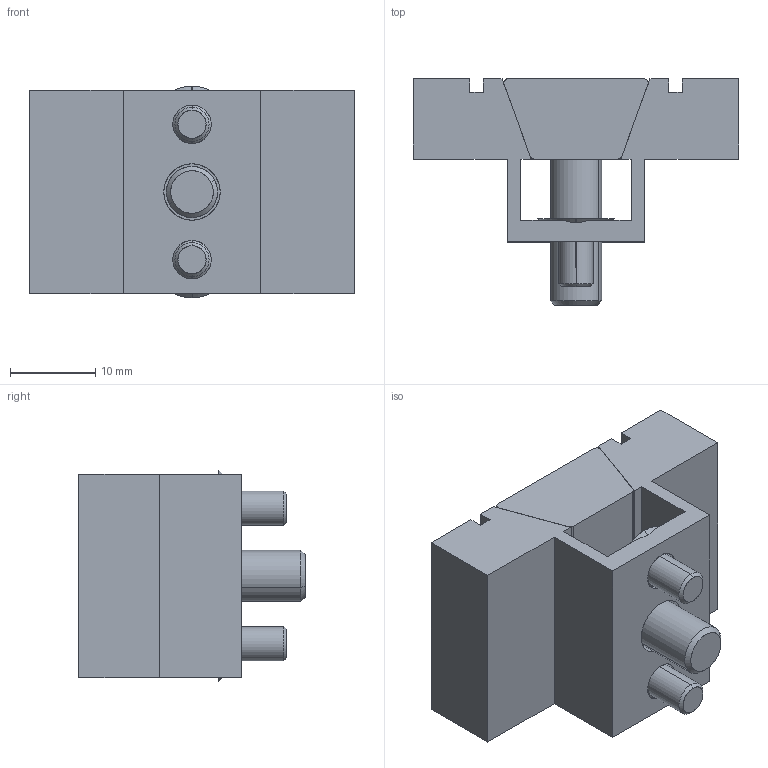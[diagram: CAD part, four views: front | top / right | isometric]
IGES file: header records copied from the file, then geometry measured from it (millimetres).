
Start section: SolidWorks IGES file using analytic representation for surfaces
Global section: file name: E:\Pending\12140_v2\12140_v2_20171107_IGES\12140.W0075.igs; native system: SolidWorks 2017; preprocessor: SolidWorks 2017; author: liam_; date: 171214.131357; units: millimetre
Bounding box: 38.1 x 26.5 x 24.83 mm (x, y, z)
Surface area: 7061.1 mm2 (no closed solid volume)
Topology: 0 solids, 0 shells, 114 faces, 1170 edges, 1166 vertices
Faces by surface type: bspline 73, revolution 41
